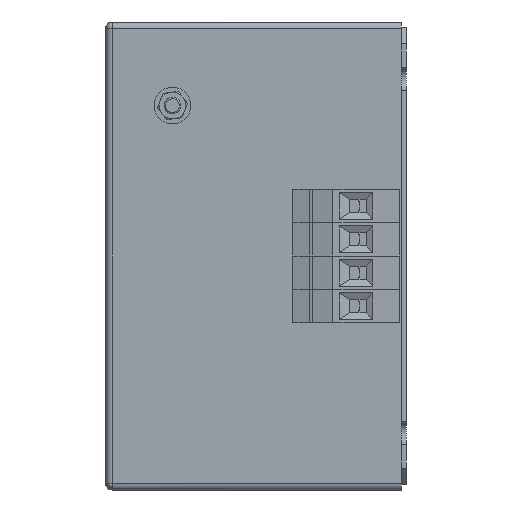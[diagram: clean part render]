
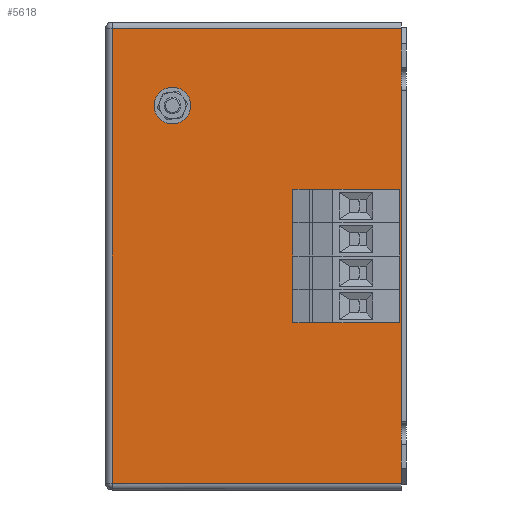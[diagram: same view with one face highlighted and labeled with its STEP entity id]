
A CAD part, left-side view. The second image highlights one B-rep face of the part: STEP entity #5618.
In plain terms, the highlighted planar face has unit normal (-1, 0, 0).
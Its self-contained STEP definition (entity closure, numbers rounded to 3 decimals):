
#53 = CIRCLE ( 'NONE', #4952, 4.1 ) ;
#140 = EDGE_CURVE ( 'NONE', #2924, #4944, #5596, .T. ) ;
#226 = EDGE_CURVE ( 'NONE', #6084, #1645, #1075, .T. ) ;
#275 = VERTEX_POINT ( 'NONE', #7083 ) ;
#290 = CARTESIAN_POINT ( 'NONE',  ( 15., 18., 53.5 ) ) ;
#321 = CARTESIAN_POINT ( 'NONE',  ( 15., 1.5, 136.5 ) ) ;
#483 = ORIENTED_EDGE ( 'NONE', *, *, #1146, .T. ) ;
#581 = FACE_BOUND ( 'NONE', #7285, .T. ) ;
#697 = DIRECTION ( 'NONE',  ( 1., 0., 0. ) ) ;
#745 = AXIS2_PLACEMENT_3D ( 'NONE', #3269, #5948, #8639 ) ;
#852 = VECTOR ( 'NONE', #1290, 1000. ) ;
#954 = ORIENTED_EDGE ( 'NONE', *, *, #7968, .T. ) ;
#1062 = LINE ( 'NONE', #3732, #1596 ) ;
#1075 = CIRCLE ( 'NONE', #4852, 4.1 ) ;
#1146 = EDGE_CURVE ( 'NONE', #7054, #6203, #4620, .T. ) ;
#1230 = VECTOR ( 'NONE', #8424, 1000. ) ;
#1240 = FACE_BOUND ( 'NONE', #5229, .T. ) ;
#1274 = CIRCLE ( 'NONE', #6183, 4.1 ) ;
#1290 = DIRECTION ( 'NONE',  ( 0., -1., 0. ) ) ;
#1441 = DIRECTION ( 'NONE',  ( 1., 0., 0. ) ) ;
#1553 = DIRECTION ( 'NONE',  ( 1., 0., 0. ) ) ;
#1596 = VECTOR ( 'NONE', #6429, 1000. ) ;
#1645 = VERTEX_POINT ( 'NONE', #6724 ) ;
#1650 = AXIS2_PLACEMENT_3D ( 'NONE', #290, #2969, #5646 ) ;
#1682 = DIRECTION ( 'NONE',  ( 1., 0., 0. ) ) ;
#1809 = ORIENTED_EDGE ( 'NONE', *, *, #2838, .T. ) ;
#1827 = EDGE_CURVE ( 'NONE', #6203, #2237, #3053, .T. ) ;
#1884 = AXIS2_PLACEMENT_3D ( 'NONE', #2609, #5281, #7975 ) ;
#1921 = ORIENTED_EDGE ( 'NONE', *, *, #140, .T. ) ;
#1935 = DIRECTION ( 'NONE',  ( 0., 0., -1. ) ) ;
#2110 = VERTEX_POINT ( 'NONE', #4794 ) ;
#2235 = CARTESIAN_POINT ( 'NONE',  ( 15., 18., 59.4 ) ) ;
#2237 = VERTEX_POINT ( 'NONE', #321 ) ;
#2465 = LINE ( 'NONE', #5133, #4351 ) ;
#2481 = VERTEX_POINT ( 'NONE', #8018 ) ;
#2604 = DIRECTION ( 'NONE',  ( 1., 0., 0. ) ) ;
#2609 = CARTESIAN_POINT ( 'NONE',  ( 15., 18., 63.5 ) ) ;
#2835 = EDGE_LOOP ( 'NONE', ( #4919, #483, #8508, #6437 ) ) ;
#2838 = EDGE_CURVE ( 'NONE', #7032, #275, #6700, .T. ) ;
#2879 = VERTEX_POINT ( 'NONE', #6181 ) ;
#2889 = ORIENTED_EDGE ( 'NONE', *, *, #226, .T. ) ;
#2908 = AXIS2_PLACEMENT_3D ( 'NONE', #7464, #1441, #4102 ) ;
#2924 = VERTEX_POINT ( 'NONE', #2235 ) ;
#2931 = AXIS2_PLACEMENT_3D ( 'NONE', #7578, #1553, #4209 ) ;
#2935 = CARTESIAN_POINT ( 'NONE',  ( 15., 18., 73.5 ) ) ;
#2969 = DIRECTION ( 'NONE',  ( 1., 0., 0. ) ) ;
#2973 = EDGE_CURVE ( 'NONE', #2879, #2481, #5429, .T. ) ;
#3025 = ORIENTED_EDGE ( 'NONE', *, *, #6178, .T. ) ;
#3029 = CARTESIAN_POINT ( 'NONE',  ( 15., 70., 111. ) ) ;
#3053 = LINE ( 'NONE', #5730, #1230 ) ;
#3078 = CARTESIAN_POINT ( 'NONE',  ( 15., 18., 53.5 ) ) ;
#3261 = FACE_BOUND ( 'NONE', #4400, .T. ) ;
#3269 = CARTESIAN_POINT ( 'NONE',  ( 15., 70., 113.5 ) ) ;
#3290 = AXIS2_PLACEMENT_3D ( 'NONE', #6727, #697, #3376 ) ;
#3376 = DIRECTION ( 'NONE',  ( 0., 0., -1. ) ) ;
#3390 = AXIS2_PLACEMENT_3D ( 'NONE', #2935, #5609, #8302 ) ;
#3429 = EDGE_LOOP ( 'NONE', ( #7410, #954 ) ) ;
#3732 = CARTESIAN_POINT ( 'NONE',  ( 15., 90., 136.5 ) ) ;
#3777 = VERTEX_POINT ( 'NONE', #4283 ) ;
#3909 = FACE_BOUND ( 'NONE', #7373, .T. ) ;
#3991 = ORIENTED_EDGE ( 'NONE', *, *, #7781, .T. ) ;
#4102 = DIRECTION ( 'NONE',  ( 0., 0., -1. ) ) ;
#4112 = VERTEX_POINT ( 'NONE', #4766 ) ;
#4160 = CARTESIAN_POINT ( 'NONE',  ( 15., 18., 67.6 ) ) ;
#4209 = DIRECTION ( 'NONE',  ( 0., 0., -1. ) ) ;
#4272 = CARTESIAN_POINT ( 'NONE',  ( 15., 1.5, 0.5 ) ) ;
#4283 = CARTESIAN_POINT ( 'NONE',  ( 15., 18., 79.4 ) ) ;
#4345 = DIRECTION ( 'NONE',  ( 0., 0., -1. ) ) ;
#4351 = VECTOR ( 'NONE', #7842, 1000. ) ;
#4400 = EDGE_LOOP ( 'NONE', ( #1809, #5632 ) ) ;
#4536 = CIRCLE ( 'NONE', #745, 2.5 ) ;
#4620 = LINE ( 'NONE', #7315, #852 ) ;
#4766 = CARTESIAN_POINT ( 'NONE',  ( 15., 18., 87.6 ) ) ;
#4794 = CARTESIAN_POINT ( 'NONE',  ( 15., 88., 136.5 ) ) ;
#4852 = AXIS2_PLACEMENT_3D ( 'NONE', #6742, #1682, #4345 ) ;
#4919 = ORIENTED_EDGE ( 'NONE', *, *, #5545, .T. ) ;
#4944 = VERTEX_POINT ( 'NONE', #4160 ) ;
#4952 = AXIS2_PLACEMENT_3D ( 'NONE', #3078, #5754, #8448 ) ;
#5133 = CARTESIAN_POINT ( 'NONE',  ( 15., 88., -1.5 ) ) ;
#5229 = EDGE_LOOP ( 'NONE', ( #3991, #8601 ) ) ;
#5247 = EDGE_CURVE ( 'NONE', #3777, #4112, #1274, .T. ) ;
#5269 = CARTESIAN_POINT ( 'NONE',  ( 15., 18., 83.5 ) ) ;
#5276 = DIRECTION ( 'NONE',  ( 0., 1., 0. ) ) ;
#5281 = DIRECTION ( 'NONE',  ( 1., 0., 0. ) ) ;
#5429 = CIRCLE ( 'NONE', #1650, 4.1 ) ;
#5479 = CARTESIAN_POINT ( 'NONE',  ( 15., 18., 77.6 ) ) ;
#5545 = EDGE_CURVE ( 'NONE', #2110, #7054, #2465, .T. ) ;
#5596 = CIRCLE ( 'NONE', #2931, 4.1 ) ;
#5609 = DIRECTION ( 'NONE',  ( 1., 0., 0. ) ) ;
#5618 = ADVANCED_FACE ( 'NONE', ( #7264, #1240, #3909, #6608, #581, #3261 ), #5941, .F. ) ;
#5632 = ORIENTED_EDGE ( 'NONE', *, *, #7454, .T. ) ;
#5646 = DIRECTION ( 'NONE',  ( 0., 0., -1. ) ) ;
#5656 = CIRCLE ( 'NONE', #1884, 4.1 ) ;
#5730 = CARTESIAN_POINT ( 'NONE',  ( 15., 1.5, -1.5 ) ) ;
#5754 = DIRECTION ( 'NONE',  ( 1., 0., 0. ) ) ;
#5763 = AXIS2_PLACEMENT_3D ( 'NONE', #8634, #2604, #5276 ) ;
#5941 = PLANE ( 'NONE',  #5763 ) ;
#5948 = DIRECTION ( 'NONE',  ( 1., 0., 0. ) ) ;
#6054 = CIRCLE ( 'NONE', #3390, 4.1 ) ;
#6084 = VERTEX_POINT ( 'NONE', #5479 ) ;
#6178 = EDGE_CURVE ( 'NONE', #1645, #6084, #6054, .T. ) ;
#6181 = CARTESIAN_POINT ( 'NONE',  ( 15., 18., 57.6 ) ) ;
#6183 = AXIS2_PLACEMENT_3D ( 'NONE', #5269, #7959, #1935 ) ;
#6203 = VERTEX_POINT ( 'NONE', #4272 ) ;
#6410 = CARTESIAN_POINT ( 'NONE',  ( 15., 88., 0.5 ) ) ;
#6429 = DIRECTION ( 'NONE',  ( 0., 1., 0. ) ) ;
#6437 = ORIENTED_EDGE ( 'NONE', *, *, #7361, .T. ) ;
#6608 = FACE_BOUND ( 'NONE', #3429, .T. ) ;
#6700 = CIRCLE ( 'NONE', #2908, 2.5 ) ;
#6724 = CARTESIAN_POINT ( 'NONE',  ( 15., 18., 69.4 ) ) ;
#6727 = CARTESIAN_POINT ( 'NONE',  ( 15., 18., 83.5 ) ) ;
#6742 = CARTESIAN_POINT ( 'NONE',  ( 15., 18., 73.5 ) ) ;
#7032 = VERTEX_POINT ( 'NONE', #3029 ) ;
#7054 = VERTEX_POINT ( 'NONE', #6410 ) ;
#7077 = CIRCLE ( 'NONE', #3290, 4.1 ) ;
#7083 = CARTESIAN_POINT ( 'NONE',  ( 15., 70., 116. ) ) ;
#7264 = FACE_OUTER_BOUND ( 'NONE', #2835, .T. ) ;
#7285 = EDGE_LOOP ( 'NONE', ( #3025, #2889 ) ) ;
#7315 = CARTESIAN_POINT ( 'NONE',  ( 15., 90., 0.5 ) ) ;
#7361 = EDGE_CURVE ( 'NONE', #2237, #2110, #1062, .T. ) ;
#7373 = EDGE_LOOP ( 'NONE', ( #1921, #7665 ) ) ;
#7410 = ORIENTED_EDGE ( 'NONE', *, *, #5247, .T. ) ;
#7454 = EDGE_CURVE ( 'NONE', #275, #7032, #4536, .T. ) ;
#7456 = EDGE_CURVE ( 'NONE', #4944, #2924, #5656, .T. ) ;
#7464 = CARTESIAN_POINT ( 'NONE',  ( 15., 70., 113.5 ) ) ;
#7578 = CARTESIAN_POINT ( 'NONE',  ( 15., 18., 63.5 ) ) ;
#7665 = ORIENTED_EDGE ( 'NONE', *, *, #7456, .T. ) ;
#7781 = EDGE_CURVE ( 'NONE', #2481, #2879, #53, .T. ) ;
#7842 = DIRECTION ( 'NONE',  ( 0., 0., -1. ) ) ;
#7959 = DIRECTION ( 'NONE',  ( 1., 0., 0. ) ) ;
#7968 = EDGE_CURVE ( 'NONE', #4112, #3777, #7077, .T. ) ;
#7975 = DIRECTION ( 'NONE',  ( 0., 0., -1. ) ) ;
#8018 = CARTESIAN_POINT ( 'NONE',  ( 15., 18., 49.4 ) ) ;
#8302 = DIRECTION ( 'NONE',  ( 0., 0., -1. ) ) ;
#8424 = DIRECTION ( 'NONE',  ( 0., 0., 1. ) ) ;
#8448 = DIRECTION ( 'NONE',  ( 0., 0., -1. ) ) ;
#8508 = ORIENTED_EDGE ( 'NONE', *, *, #1827, .T. ) ;
#8601 = ORIENTED_EDGE ( 'NONE', *, *, #2973, .T. ) ;
#8634 = CARTESIAN_POINT ( 'NONE',  ( 15., 90., -1.5 ) ) ;
#8639 = DIRECTION ( 'NONE',  ( 0., 0., -1. ) ) ;
